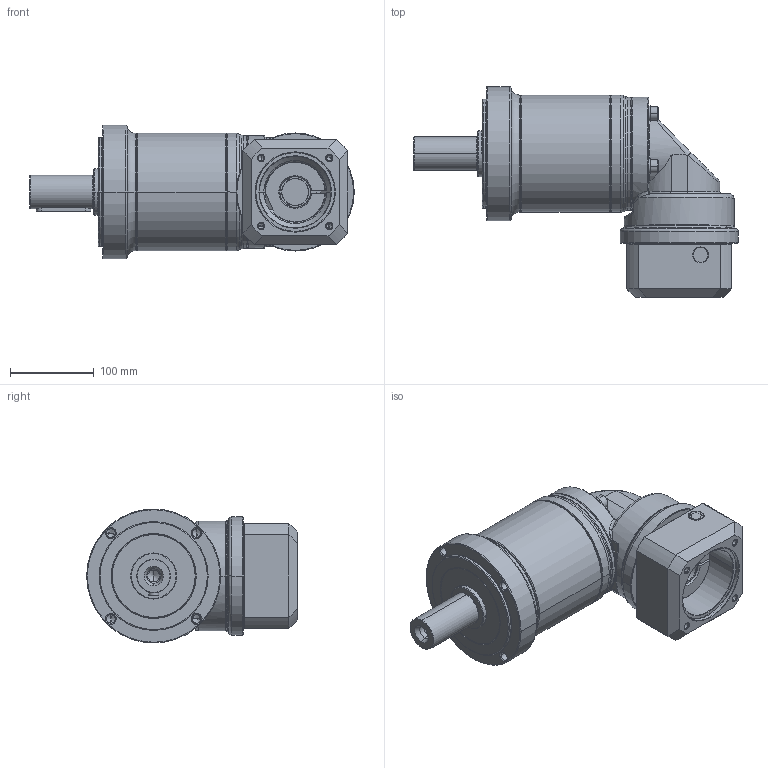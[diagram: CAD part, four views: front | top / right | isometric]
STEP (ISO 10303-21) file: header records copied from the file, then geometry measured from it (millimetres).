
FILE_DESCRIPTION((''),'2;1');
FILE_NAME('PG2R-160_2ST_32-P0411700101_ASM','2016-04-26T',('d01943'),(''),'PRO/ENGINEER BY PARAMETRIC TECHNOLOGY CORPORATION, 2008410','PRO/ENGINEER BY PARAMETRIC TECHNOLOGY CORPORATION, 2008410','');
FILE_SCHEMA(('CONFIG_CONTROL_DESIGN'));
Length unit declared in the file: millimetre
Products named in the file (12): P1325510001; P0251500001; P0350501103; P1349500001; P1017500001; P0713503001; P0503700010; P1350500301; P0411700101; P1702600001; 2111BA10040; PG2R-160_2ST_32-P0411700101_ASM
Assembly tree (14 placements, depth 2):
  PG2R-160_2ST_32-P0411700101_ASM
    P1325510001
    P0251500001
    P0350501103
    P1349500001
    P1017500001
    P0713503001
    P0503700010
    P1350500301
    P0411700101
    P1702600001
    2111BA10040  x4
Bounding box: 387.5 x 251.5 x 160 mm (x, y, z)
Volume: 3387270.4 mm3; surface area: 532572.7 mm2
Topology: 14 solids, 15 shells, 713 faces, 1570 edges, 910 vertices
Faces by surface type: cylinder 221, cone 198, plane 156, torus 106, bspline 32
Entity records: 22887 total; most frequent: CARTESIAN_POINT 9107, DIRECTION 3061, ORIENTED_EDGE 2664, EDGE_CURVE 1332, AXIS2_PLACEMENT_3D 1296, VERTEX_POINT 790, EDGE_LOOP 690, CIRCLE 688
